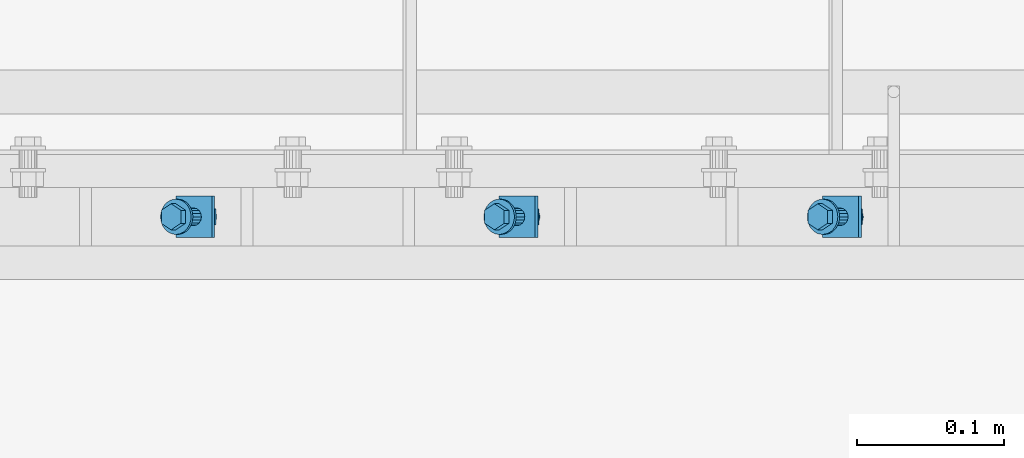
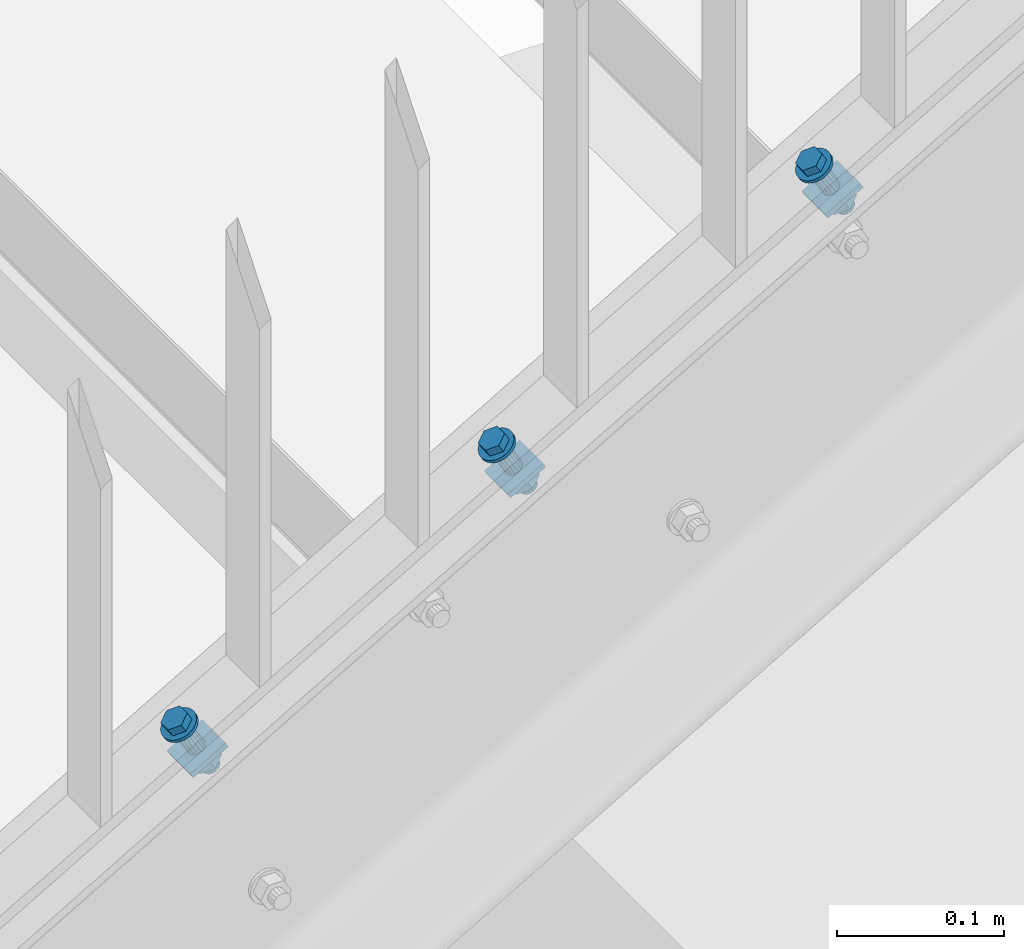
# One storey, part 69 of 145: 3 mechanical fasteners.
"""IFC2X3 building model written with IfcOpenShell, lengths in millimetres."""

from ifc_helpers import new_model, entity, si_unit, converted_unit, origin_with_axes, place, context, project, spatial, faceted_brep, element, save


model = new_model("IFC2X3")

# Units and contexts
model_context = context("Model", 3, precision=1e-09, world=origin_with_axes())
ifc_project = project(units=[si_unit("LENGTHUNIT", "METRE", prefix="MILLI"), si_unit("AREAUNIT", "SQUARE_METRE"), si_unit("VOLUMEUNIT", "CUBIC_METRE"), converted_unit("PLANEANGLEUNIT", "DEGREE", entity("IfcPlaneAngleMeasure", 0.01745329), si_unit("PLANEANGLEUNIT", "RADIAN"), dimensions=[0, 0, 0, 0, 0, 0, 0])], contexts=[model_context])

# Site, building, storey
site_placement = place(None, origin_with_axes())
site = spatial("IfcSite", under=ifc_project, at=site_placement, Name="BZ1 Grund- und Mittelschule 85716 Unterschlei?heim", CompositionType="ELEMENT")
building_placement = place(site_placement, origin_with_axes())
building = spatial("IfcBuilding", under=site, at=building_placement, Name="Struktur 1", CompositionType="ELEMENT")
storey_placement = place(building_placement, origin_with_axes())
storey = spatial("IfcBuildingStorey", under=building, at=storey_placement, Name="Default Storey", CompositionType="ELEMENT", Elevation=0.0)

# Mechanical fasteners
mechanical_fastener_1_placement = place(None, origin_with_axes())
element("IfcMechanicalFastener", 1, at=mechanical_fastener_1_placement, inside=storey, ObjectType="-", NominalDiameter=12.0, NominalLength=45.0, context=model_context, shape_type="Brep", body=[
    faceted_brep([(18239.693272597, -3162.502, 656.738484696), (18240.950000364, -3162.502, 654.577319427), (18241.14932605, -3164.843083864, 654.693228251), (18239.892598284, -3164.843083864, 656.85439352), (18241.739643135, -3167.094201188, 655.036500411), (18240.482915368, -3167.094201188, 657.19766568), (18242.698266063, -3169.168842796, 655.593944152), (18241.441538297, -3169.168842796, 657.755109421), (18243.988355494, -3170.987281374, 656.344137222), (18242.731627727, -3170.987281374, 658.505302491), (18245.560334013, -3172.479635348, 657.258250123), (18244.303606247, -3172.479635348, 659.419415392), (18247.353791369, -3173.58855439, 658.301154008), (18246.097063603, -3173.58855439, 660.462319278), (18249.299806, -3174.271423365, 659.432770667), (18248.043078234, -3174.271423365, 661.593935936), (18251.323593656, -3174.502, 660.609612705), (18250.06686589, -3174.502, 662.770777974), (18253.347381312, -3174.271423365, 661.786454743), (18252.090653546, -3174.271423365, 663.947620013), (18255.293395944, -3173.58855439, 662.918071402), (18254.036668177, -3173.58855439, 665.079236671), (18257.086853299, -3172.479635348, 663.960975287), (18255.830125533, -3172.479635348, 666.122140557), (18258.658831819, -3170.987281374, 664.875088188), (18257.402104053, -3170.987281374, 667.036253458), (18259.94892125, -3169.168842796, 665.625281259), (18258.692193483, -3169.168842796, 667.786446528), (18260.907544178, -3167.094201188, 666.182724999), (18259.650816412, -3167.094201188, 668.343890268), (18261.497861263, -3164.843083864, 666.52599716), (18260.241133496, -3164.843083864, 668.687162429), (18261.697186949, -3162.502, 666.641905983), (18260.440459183, -3162.502, 668.803071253), (18261.497861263, -3160.160916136, 666.52599716), (18260.241133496, -3160.160916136, 668.687162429), (18260.907544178, -3157.909798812, 666.182724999), (18259.650816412, -3157.909798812, 668.343890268), (18259.94892125, -3155.835157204, 665.625281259), (18258.692193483, -3155.835157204, 667.786446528), (18258.658831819, -3154.016718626, 664.875088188), (18257.402104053, -3154.016718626, 667.036253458), (18257.086853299, -3152.524364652, 663.960975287), (18255.830125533, -3152.524364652, 666.122140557), (18255.293395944, -3151.41544561, 662.918071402), (18254.036668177, -3151.41544561, 665.079236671), (18253.347381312, -3150.732576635, 661.786454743), (18252.090653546, -3150.732576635, 663.947620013), (18251.323593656, -3150.502, 660.609612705), (18250.06686589, -3150.502, 662.770777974), (18249.299806, -3150.732576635, 659.432770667), (18248.043078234, -3150.732576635, 661.593935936), (18247.353791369, -3151.41544561, 658.301154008), (18246.097063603, -3151.41544561, 660.462319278), (18245.560334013, -3152.524364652, 657.258250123), (18244.303606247, -3152.524364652, 659.419415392), (18243.988355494, -3154.016718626, 656.344137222), (18242.731627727, -3154.016718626, 658.505302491), (18242.698266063, -3155.835157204, 655.593944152), (18241.441538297, -3155.835157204, 657.755109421), (18241.739643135, -3157.909798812, 655.036500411), (18240.482915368, -3157.909798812, 657.19766568), (18241.14932605, -3160.160916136, 654.693228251), (18239.892598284, -3160.160916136, 656.85439352)], [[[0, 1, 2, 3]], [[3, 2, 4, 5]], [[5, 4, 6, 7]], [[7, 6, 8, 9]], [[9, 8, 10, 11]], [[11, 10, 12, 13]], [[13, 12, 14, 15]], [[15, 14, 16, 17]], [[17, 16, 18, 19]], [[19, 18, 20, 21]], [[21, 20, 22, 23]], [[23, 22, 24, 25]], [[25, 24, 26, 27]], [[27, 26, 28, 29]], [[29, 28, 30, 31]], [[31, 30, 32, 33]], [[33, 32, 34, 35]], [[35, 34, 36, 37]], [[37, 36, 38, 39]], [[39, 38, 40, 41]], [[41, 40, 42, 43]], [[43, 42, 44, 45]], [[45, 44, 46, 47]], [[47, 46, 48, 49]], [[49, 48, 50, 51]], [[51, 50, 52, 53]], [[53, 52, 54, 55]], [[55, 54, 56, 57]], [[57, 56, 58, 59]], [[59, 58, 60, 61]], [[61, 60, 62, 63]], [[63, 62, 1, 0]], [[0, 3, 5, 7, 9, 11, 13, 15, 17, 19, 21, 23, 25, 27, 29, 31, 33, 35, 37, 39, 41, 43, 45, 47, 49, 51, 53, 55, 57, 59, 61, 63]], [[1, 62, 60, 58, 56, 54, 52, 50, 48, 46, 44, 42, 40, 38, 36, 34, 32, 30, 28, 26, 24, 22, 20, 18, 16, 14, 12, 10, 8, 6, 4, 2]]]),
    faceted_brep([(18256.718617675, -3166.9445, 666.638802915), (18253.501394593, -3166.9445, 672.171386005), (18246.849642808, -3171.387, 668.303361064), (18250.06686589, -3171.387, 662.770777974), (18240.197891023, -3166.9445, 664.435336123), (18243.415114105, -3166.9445, 658.902753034), (18240.197891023, -3158.0595, 664.435336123), (18243.415114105, -3158.0595, 658.902753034), (18246.849642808, -3153.617, 668.303361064), (18250.06686589, -3153.617, 662.770777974), (18253.501394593, -3158.0595, 672.171386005), (18256.718617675, -3158.0595, 666.638802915)], [[[0, 1, 2, 3]], [[3, 2, 4, 5]], [[5, 4, 6, 7]], [[7, 6, 8, 9]], [[9, 8, 10, 11]], [[11, 10, 1, 0]], [[4, 2, 1, 10, 8, 6]], [[0, 3, 5, 7, 9, 11]]]),
    faceted_brep([(18246.13679701, -3162.502, 657.593466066), (18257.117588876, -3162.502, 638.710055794), (18257.512410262, -3164.798100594, 638.939646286), (18246.531618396, -3164.798100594, 657.823056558), (18258.636766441, -3166.744640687, 639.593464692), (18247.655974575, -3166.744640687, 658.476874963), (18260.319484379, -3168.045277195, 640.571973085), (18249.338692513, -3168.045277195, 659.455383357), (18262.304385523, -3168.502, 641.726202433), (18251.323593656, -3168.502, 660.609612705), (18264.289286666, -3168.045277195, 642.880431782), (18253.3084948, -3168.045277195, 661.763842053), (18265.972004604, -3166.744640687, 643.858940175), (18254.991212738, -3166.744640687, 662.742350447), (18267.096360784, -3164.798100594, 644.51275858), (18256.115568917, -3164.798100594, 663.396168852), (18267.491182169, -3162.502, 644.742349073), (18256.510390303, -3162.502, 663.625759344), (18267.096360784, -3160.205899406, 644.51275858), (18256.115568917, -3160.205899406, 663.396168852), (18265.972004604, -3158.259359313, 643.858940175), (18254.991212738, -3158.259359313, 662.742350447), (18264.289286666, -3156.958722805, 642.880431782), (18253.3084948, -3156.958722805, 661.763842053), (18262.304385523, -3156.502, 641.726202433), (18251.323593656, -3156.502, 660.609612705), (18260.319484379, -3156.958722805, 640.571973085), (18249.338692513, -3156.958722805, 659.455383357), (18258.636766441, -3158.259359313, 639.593464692), (18247.655974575, -3158.259359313, 658.476874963), (18257.512410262, -3160.205899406, 638.939646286), (18246.531618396, -3160.205899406, 657.823056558)], [[[0, 1, 2, 3]], [[3, 2, 4, 5]], [[5, 4, 6, 7]], [[7, 6, 8, 9]], [[9, 8, 10, 11]], [[11, 10, 12, 13]], [[13, 12, 14, 15]], [[15, 14, 16, 17]], [[17, 16, 18, 19]], [[19, 18, 20, 21]], [[21, 20, 22, 23]], [[23, 22, 24, 25]], [[25, 24, 26, 27]], [[27, 26, 28, 29]], [[29, 28, 30, 31]], [[31, 30, 1, 0]], [[0, 3, 5, 7, 9, 11, 13, 15, 17, 19, 21, 23, 25, 27, 29, 31]], [[1, 30, 28, 26, 24, 22, 20, 18, 16, 14, 12, 10, 8, 6, 4, 2]]]),
    faceted_brep([(18276.540546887, -3176.644135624, 645.377463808), (18274.52978246, -3176.644135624, 648.835328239), (18250.078988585, -3176.644135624, 634.617076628), (18252.089753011, -3176.644135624, 631.159212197), (18250.078988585, -3148.359864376, 634.617076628), (18252.089753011, -3148.359864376, 631.159212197), (18274.52978246, -3148.359864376, 648.835328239), (18276.540546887, -3148.359864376, 645.377463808)], [[[0, 1, 2, 3]], [[3, 2, 4, 5]], [[5, 4, 6, 7]], [[7, 6, 1, 0]], [[4, 2, 1, 6]], [[0, 3, 5, 7]]]),
    faceted_brep([(18277.2403144, -3167.777, 634.216548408), (18272.213403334, -3167.777, 642.861209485), (18264.315149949, -3173.052, 638.268338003), (18269.342061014, -3173.052, 629.623676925), (18256.416896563, -3167.777, 633.67546652), (18261.443807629, -3167.777, 625.030805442), (18256.416896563, -3157.227, 633.67546652), (18261.443807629, -3157.227, 625.030805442), (18264.315149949, -3151.952, 638.268338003), (18269.342061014, -3151.952, 629.623676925), (18272.213403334, -3157.227, 642.861209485), (18277.2403144, -3157.227, 634.216548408)], [[[0, 1, 2, 3]], [[3, 2, 4, 5]], [[5, 4, 6, 7]], [[7, 6, 8, 9]], [[9, 8, 10, 11]], [[11, 10, 1, 0]], [[4, 2, 1, 10, 8, 6]], [[0, 3, 5, 7, 9, 11]]]),
    faceted_brep([(18264.155264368, -3162.502, 626.607530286), (18267.501169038, -3162.502, 620.853656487), (18267.895990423, -3164.798100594, 621.08324698), (18264.550085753, -3164.798100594, 626.837120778), (18269.020346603, -3166.744640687, 621.737065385), (18265.674441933, -3166.744640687, 627.490939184), (18270.70306454, -3168.045277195, 622.715573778), (18267.357159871, -3168.045277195, 628.469447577), (18272.687965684, -3168.502, 623.869803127), (18269.342061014, -3168.502, 629.623676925), (18274.672866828, -3168.045277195, 625.024032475), (18271.326962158, -3168.045277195, 630.777906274), (18276.355584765, -3166.744640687, 626.002540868), (18273.009680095, -3166.744640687, 631.756414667), (18277.479940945, -3164.798100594, 626.656359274), (18274.134036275, -3164.798100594, 632.410233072), (18277.87476233, -3162.502, 626.885949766), (18274.528857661, -3162.502, 632.639823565), (18277.479940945, -3160.205899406, 626.656359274), (18274.134036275, -3160.205899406, 632.410233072), (18276.355584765, -3158.259359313, 626.002540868), (18273.009680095, -3158.259359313, 631.756414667), (18274.672866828, -3156.958722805, 625.024032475), (18271.326962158, -3156.958722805, 630.777906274), (18272.687965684, -3156.502, 623.869803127), (18269.342061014, -3156.502, 629.623676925), (18270.70306454, -3156.958722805, 622.715573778), (18267.357159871, -3156.958722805, 628.469447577), (18269.020346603, -3158.259359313, 621.737065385), (18265.674441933, -3158.259359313, 627.490939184), (18267.895990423, -3160.205899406, 621.08324698), (18264.550085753, -3160.205899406, 626.837120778)], [[[0, 1, 2, 3]], [[3, 2, 4, 5]], [[5, 4, 6, 7]], [[7, 6, 8, 9]], [[9, 8, 10, 11]], [[11, 10, 12, 13]], [[13, 12, 14, 15]], [[15, 14, 16, 17]], [[17, 16, 18, 19]], [[19, 18, 20, 21]], [[21, 20, 22, 23]], [[23, 22, 24, 25]], [[25, 24, 26, 27]], [[27, 26, 28, 29]], [[29, 28, 30, 31]], [[31, 30, 1, 0]], [[0, 3, 5, 7, 9, 11, 13, 15, 17, 19, 21, 23, 25, 27, 29, 31]], [[1, 30, 28, 26, 24, 22, 20, 18, 16, 14, 12, 10, 8, 6, 4, 2]]]),
])
mechanical_fastener_2_placement = place(None, origin_with_axes())
element("IfcMechanicalFastener", 2, at=mechanical_fastener_2_placement, inside=storey, ObjectType="-", NominalDiameter=12.0, NominalLength=45.0, context=model_context, shape_type="Brep", body=[
    faceted_brep([(18459.693775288, -3162.502, 784.669811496), (18460.950503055, -3162.502, 782.508646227), (18461.149828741, -3164.843083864, 782.624555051), (18459.893100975, -3164.843083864, 784.78572032), (18461.740145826, -3167.094201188, 782.967827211), (18460.483418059, -3167.094201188, 785.12899248), (18462.698768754, -3169.168842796, 783.525270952), (18461.442040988, -3169.168842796, 785.686436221), (18463.988858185, -3170.987281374, 784.275464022), (18462.732130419, -3170.987281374, 786.436629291), (18465.560836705, -3172.479635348, 785.189576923), (18464.304108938, -3172.479635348, 787.350742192), (18467.35429406, -3173.58855439, 786.232480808), (18466.097566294, -3173.58855439, 788.393646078), (18469.300308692, -3174.271423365, 787.364097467), (18468.043580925, -3174.271423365, 789.525262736), (18471.324096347, -3174.502, 788.540939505), (18470.067368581, -3174.502, 790.702104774), (18473.347884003, -3174.271423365, 789.717781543), (18472.091156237, -3174.271423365, 791.878946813), (18475.293898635, -3173.58855439, 790.849398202), (18474.037170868, -3173.58855439, 793.010563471), (18477.08735599, -3172.479635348, 791.892302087), (18475.830628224, -3172.479635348, 794.053467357), (18478.65933451, -3170.987281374, 792.806414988), (18477.402606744, -3170.987281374, 794.967580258), (18479.949423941, -3169.168842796, 793.556608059), (18478.692696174, -3169.168842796, 795.717773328), (18480.908046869, -3167.094201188, 794.114051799), (18479.651319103, -3167.094201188, 796.275217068), (18481.498363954, -3164.843083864, 794.45732396), (18480.241636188, -3164.843083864, 796.618489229), (18481.69768964, -3162.502, 794.573232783), (18480.440961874, -3162.502, 796.734398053), (18481.498363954, -3160.160916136, 794.45732396), (18480.241636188, -3160.160916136, 796.618489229), (18480.908046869, -3157.909798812, 794.114051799), (18479.651319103, -3157.909798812, 796.275217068), (18479.949423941, -3155.835157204, 793.556608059), (18478.692696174, -3155.835157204, 795.717773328), (18478.65933451, -3154.016718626, 792.806414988), (18477.402606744, -3154.016718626, 794.967580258), (18477.08735599, -3152.524364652, 791.892302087), (18475.830628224, -3152.524364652, 794.053467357), (18475.293898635, -3151.41544561, 790.849398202), (18474.037170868, -3151.41544561, 793.010563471), (18473.347884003, -3150.732576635, 789.717781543), (18472.091156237, -3150.732576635, 791.878946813), (18471.324096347, -3150.502, 788.540939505), (18470.067368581, -3150.502, 790.702104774), (18469.300308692, -3150.732576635, 787.364097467), (18468.043580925, -3150.732576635, 789.525262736), (18467.35429406, -3151.41544561, 786.232480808), (18466.097566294, -3151.41544561, 788.393646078), (18465.560836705, -3152.524364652, 785.189576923), (18464.304108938, -3152.524364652, 787.350742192), (18463.988858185, -3154.016718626, 784.275464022), (18462.732130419, -3154.016718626, 786.436629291), (18462.698768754, -3155.835157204, 783.525270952), (18461.442040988, -3155.835157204, 785.686436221), (18461.740145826, -3157.909798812, 782.967827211), (18460.483418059, -3157.909798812, 785.12899248), (18461.149828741, -3160.160916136, 782.624555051), (18459.893100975, -3160.160916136, 784.78572032)], [[[0, 1, 2, 3]], [[3, 2, 4, 5]], [[5, 4, 6, 7]], [[7, 6, 8, 9]], [[9, 8, 10, 11]], [[11, 10, 12, 13]], [[13, 12, 14, 15]], [[15, 14, 16, 17]], [[17, 16, 18, 19]], [[19, 18, 20, 21]], [[21, 20, 22, 23]], [[23, 22, 24, 25]], [[25, 24, 26, 27]], [[27, 26, 28, 29]], [[29, 28, 30, 31]], [[31, 30, 32, 33]], [[33, 32, 34, 35]], [[35, 34, 36, 37]], [[37, 36, 38, 39]], [[39, 38, 40, 41]], [[41, 40, 42, 43]], [[43, 42, 44, 45]], [[45, 44, 46, 47]], [[47, 46, 48, 49]], [[49, 48, 50, 51]], [[51, 50, 52, 53]], [[53, 52, 54, 55]], [[55, 54, 56, 57]], [[57, 56, 58, 59]], [[59, 58, 60, 61]], [[61, 60, 62, 63]], [[63, 62, 1, 0]], [[0, 3, 5, 7, 9, 11, 13, 15, 17, 19, 21, 23, 25, 27, 29, 31, 33, 35, 37, 39, 41, 43, 45, 47, 49, 51, 53, 55, 57, 59, 61, 63]], [[1, 62, 60, 58, 56, 54, 52, 50, 48, 46, 44, 42, 40, 38, 36, 34, 32, 30, 28, 26, 24, 22, 20, 18, 16, 14, 12, 10, 8, 6, 4, 2]]]),
    faceted_brep([(18476.719120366, -3166.9445, 794.570129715), (18473.501897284, -3166.9445, 800.102712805), (18466.850145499, -3171.387, 796.234687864), (18470.067368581, -3171.387, 790.702104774), (18460.198393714, -3166.9445, 792.366662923), (18463.415616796, -3166.9445, 786.834079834), (18460.198393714, -3158.0595, 792.366662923), (18463.415616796, -3158.0595, 786.834079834), (18466.850145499, -3153.617, 796.234687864), (18470.067368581, -3153.617, 790.702104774), (18473.501897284, -3158.0595, 800.102712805), (18476.719120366, -3158.0595, 794.570129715)], [[[0, 1, 2, 3]], [[3, 2, 4, 5]], [[5, 4, 6, 7]], [[7, 6, 8, 9]], [[9, 8, 10, 11]], [[11, 10, 1, 0]], [[4, 2, 1, 10, 8, 6]], [[0, 3, 5, 7, 9, 11]]]),
    faceted_brep([(18466.137299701, -3162.502, 785.524792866), (18477.118091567, -3162.502, 766.641382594), (18477.512912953, -3164.798100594, 766.870973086), (18466.532121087, -3164.798100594, 785.754383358), (18478.637269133, -3166.744640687, 767.524791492), (18467.656477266, -3166.744640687, 786.408201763), (18480.31998707, -3168.045277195, 768.503299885), (18469.339195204, -3168.045277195, 787.386710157), (18482.304888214, -3168.502, 769.657529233), (18471.324096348, -3168.502, 788.540939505), (18484.289789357, -3168.045277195, 770.811758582), (18473.308997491, -3168.045277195, 789.695168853), (18485.972507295, -3166.744640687, 771.790266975), (18474.991715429, -3166.744640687, 790.673677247), (18487.096863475, -3164.798100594, 772.44408538), (18476.116071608, -3164.798100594, 791.327495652), (18487.49168486, -3162.502, 772.673675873), (18476.510892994, -3162.502, 791.557086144), (18487.096863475, -3160.205899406, 772.44408538), (18476.116071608, -3160.205899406, 791.327495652), (18485.972507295, -3158.259359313, 771.790266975), (18474.991715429, -3158.259359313, 790.673677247), (18484.289789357, -3156.958722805, 770.811758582), (18473.308997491, -3156.958722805, 789.695168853), (18482.304888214, -3156.502, 769.657529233), (18471.324096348, -3156.502, 788.540939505), (18480.31998707, -3156.958722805, 768.503299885), (18469.339195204, -3156.958722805, 787.386710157), (18478.637269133, -3158.259359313, 767.524791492), (18467.656477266, -3158.259359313, 786.408201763), (18477.512912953, -3160.205899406, 766.870973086), (18466.532121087, -3160.205899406, 785.754383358)], [[[0, 1, 2, 3]], [[3, 2, 4, 5]], [[5, 4, 6, 7]], [[7, 6, 8, 9]], [[9, 8, 10, 11]], [[11, 10, 12, 13]], [[13, 12, 14, 15]], [[15, 14, 16, 17]], [[17, 16, 18, 19]], [[19, 18, 20, 21]], [[21, 20, 22, 23]], [[23, 22, 24, 25]], [[25, 24, 26, 27]], [[27, 26, 28, 29]], [[29, 28, 30, 31]], [[31, 30, 1, 0]], [[0, 3, 5, 7, 9, 11, 13, 15, 17, 19, 21, 23, 25, 27, 29, 31]], [[1, 30, 28, 26, 24, 22, 20, 18, 16, 14, 12, 10, 8, 6, 4, 2]]]),
    faceted_brep([(18496.541049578, -3176.644135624, 773.308790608), (18494.530285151, -3176.644135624, 776.766655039), (18470.079491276, -3176.644135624, 762.548403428), (18472.090255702, -3176.644135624, 759.090538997), (18470.079491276, -3148.359864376, 762.548403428), (18472.090255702, -3148.359864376, 759.090538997), (18494.530285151, -3148.359864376, 776.766655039), (18496.541049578, -3148.359864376, 773.308790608)], [[[0, 1, 2, 3]], [[3, 2, 4, 5]], [[5, 4, 6, 7]], [[7, 6, 1, 0]], [[4, 2, 1, 6]], [[0, 3, 5, 7]]]),
    faceted_brep([(18497.240817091, -3167.777, 762.147875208), (18492.213906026, -3167.777, 770.792536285), (18484.31565264, -3173.052, 766.199664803), (18489.342563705, -3173.052, 757.555003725), (18476.417399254, -3167.777, 761.60679332), (18481.44431032, -3167.777, 752.962132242), (18476.417399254, -3157.227, 761.60679332), (18481.44431032, -3157.227, 752.962132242), (18484.31565264, -3151.952, 766.199664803), (18489.342563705, -3151.952, 757.555003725), (18492.213906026, -3157.227, 770.792536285), (18497.240817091, -3157.227, 762.147875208)], [[[0, 1, 2, 3]], [[3, 2, 4, 5]], [[5, 4, 6, 7]], [[7, 6, 8, 9]], [[9, 8, 10, 11]], [[11, 10, 1, 0]], [[4, 2, 1, 10, 8, 6]], [[0, 3, 5, 7, 9, 11]]]),
    faceted_brep([(18484.155767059, -3162.502, 754.538857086), (18487.501671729, -3162.502, 748.784983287), (18487.896493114, -3164.798100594, 749.01457378), (18484.550588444, -3164.798100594, 754.768447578), (18489.020849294, -3166.744640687, 749.668392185), (18485.674944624, -3166.744640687, 755.422265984), (18490.703567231, -3168.045277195, 750.646900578), (18487.357662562, -3168.045277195, 756.400774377), (18492.688468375, -3168.502, 751.801129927), (18489.342563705, -3168.502, 757.555003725), (18494.673369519, -3168.045277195, 752.955359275), (18491.327464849, -3168.045277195, 758.709233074), (18496.356087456, -3166.744640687, 753.933867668), (18493.010182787, -3166.744640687, 759.687741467), (18497.480443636, -3164.798100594, 754.587686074), (18494.134538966, -3164.798100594, 760.341559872), (18497.875265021, -3162.502, 754.817276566), (18494.529360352, -3162.502, 760.571150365), (18497.480443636, -3160.205899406, 754.587686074), (18494.134538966, -3160.205899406, 760.341559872), (18496.356087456, -3158.259359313, 753.933867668), (18493.010182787, -3158.259359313, 759.687741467), (18494.673369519, -3156.958722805, 752.955359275), (18491.327464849, -3156.958722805, 758.709233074), (18492.688468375, -3156.502, 751.801129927), (18489.342563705, -3156.502, 757.555003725), (18490.703567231, -3156.958722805, 750.646900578), (18487.357662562, -3156.958722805, 756.400774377), (18489.020849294, -3158.259359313, 749.668392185), (18485.674944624, -3158.259359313, 755.422265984), (18487.896493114, -3160.205899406, 749.01457378), (18484.550588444, -3160.205899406, 754.768447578)], [[[0, 1, 2, 3]], [[3, 2, 4, 5]], [[5, 4, 6, 7]], [[7, 6, 8, 9]], [[9, 8, 10, 11]], [[11, 10, 12, 13]], [[13, 12, 14, 15]], [[15, 14, 16, 17]], [[17, 16, 18, 19]], [[19, 18, 20, 21]], [[21, 20, 22, 23]], [[23, 22, 24, 25]], [[25, 24, 26, 27]], [[27, 26, 28, 29]], [[29, 28, 30, 31]], [[31, 30, 1, 0]], [[0, 3, 5, 7, 9, 11, 13, 15, 17, 19, 21, 23, 25, 27, 29, 31]], [[1, 30, 28, 26, 24, 22, 20, 18, 16, 14, 12, 10, 8, 6, 4, 2]]]),
])
mechanical_fastener_3_placement = place(None, origin_with_axes())
element("IfcMechanicalFastener", 3, at=mechanical_fastener_3_placement, inside=storey, ObjectType="-", NominalDiameter=12.0, NominalLength=45.0, context=model_context, shape_type="Brep", body=[
    faceted_brep([(18679.69427798, -3162.502, 912.601138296), (18680.951005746, -3162.502, 910.439973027), (18681.150331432, -3164.843083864, 910.55588185), (18679.893603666, -3164.843083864, 912.71704712), (18681.740648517, -3167.094201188, 910.899154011), (18680.48392075, -3167.094201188, 913.06031928), (18682.699271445, -3169.168842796, 911.456597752), (18681.442543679, -3169.168842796, 913.617763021), (18683.989360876, -3170.987281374, 912.206790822), (18682.73263311, -3170.987281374, 914.367956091), (18685.561339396, -3172.479635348, 913.120903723), (18684.304611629, -3172.479635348, 915.282068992), (18687.354796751, -3173.58855439, 914.163807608), (18686.098068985, -3173.58855439, 916.324972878), (18689.300811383, -3174.271423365, 915.295424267), (18688.044083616, -3174.271423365, 917.456589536), (18691.324599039, -3174.502, 916.472266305), (18690.067871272, -3174.502, 918.633431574), (18693.348386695, -3174.271423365, 917.649108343), (18692.091658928, -3174.271423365, 919.810273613), (18695.294401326, -3173.58855439, 918.780725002), (18694.03767356, -3173.58855439, 920.941890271), (18697.087858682, -3172.479635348, 919.823628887), (18695.831130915, -3172.479635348, 921.984794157), (18698.659837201, -3170.987281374, 920.737741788), (18697.403109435, -3170.987281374, 922.898907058), (18699.949926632, -3169.168842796, 921.487934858), (18698.693198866, -3169.168842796, 923.649100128), (18700.90854956, -3167.094201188, 922.045378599), (18699.651821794, -3167.094201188, 924.206543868), (18701.498866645, -3164.843083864, 922.38865076), (18700.242138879, -3164.843083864, 924.549816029), (18701.698192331, -3162.502, 922.504559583), (18700.441464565, -3162.502, 924.665724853), (18701.498866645, -3160.160916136, 922.38865076), (18700.242138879, -3160.160916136, 924.549816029), (18700.90854956, -3157.909798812, 922.045378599), (18699.651821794, -3157.909798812, 924.206543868), (18699.949926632, -3155.835157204, 921.487934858), (18698.693198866, -3155.835157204, 923.649100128), (18698.659837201, -3154.016718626, 920.737741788), (18697.403109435, -3154.016718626, 922.898907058), (18697.087858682, -3152.524364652, 919.823628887), (18695.831130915, -3152.524364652, 921.984794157), (18695.294401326, -3151.41544561, 918.780725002), (18694.03767356, -3151.41544561, 920.941890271), (18693.348386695, -3150.732576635, 917.649108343), (18692.091658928, -3150.732576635, 919.810273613), (18691.324599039, -3150.502, 916.472266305), (18690.067871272, -3150.502, 918.633431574), (18689.300811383, -3150.732576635, 915.295424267), (18688.044083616, -3150.732576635, 917.456589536), (18687.354796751, -3151.41544561, 914.163807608), (18686.098068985, -3151.41544561, 916.324972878), (18685.561339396, -3152.524364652, 913.120903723), (18684.304611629, -3152.524364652, 915.282068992), (18683.989360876, -3154.016718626, 912.206790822), (18682.73263311, -3154.016718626, 914.367956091), (18682.699271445, -3155.835157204, 911.456597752), (18681.442543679, -3155.835157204, 913.617763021), (18681.740648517, -3157.909798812, 910.899154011), (18680.48392075, -3157.909798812, 913.06031928), (18681.150331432, -3160.160916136, 910.55588185), (18679.893603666, -3160.160916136, 912.71704712)], [[[0, 1, 2, 3]], [[3, 2, 4, 5]], [[5, 4, 6, 7]], [[7, 6, 8, 9]], [[9, 8, 10, 11]], [[11, 10, 12, 13]], [[13, 12, 14, 15]], [[15, 14, 16, 17]], [[17, 16, 18, 19]], [[19, 18, 20, 21]], [[21, 20, 22, 23]], [[23, 22, 24, 25]], [[25, 24, 26, 27]], [[27, 26, 28, 29]], [[29, 28, 30, 31]], [[31, 30, 32, 33]], [[33, 32, 34, 35]], [[35, 34, 36, 37]], [[37, 36, 38, 39]], [[39, 38, 40, 41]], [[41, 40, 42, 43]], [[43, 42, 44, 45]], [[45, 44, 46, 47]], [[47, 46, 48, 49]], [[49, 48, 50, 51]], [[51, 50, 52, 53]], [[53, 52, 54, 55]], [[55, 54, 56, 57]], [[57, 56, 58, 59]], [[59, 58, 60, 61]], [[61, 60, 62, 63]], [[63, 62, 1, 0]], [[0, 3, 5, 7, 9, 11, 13, 15, 17, 19, 21, 23, 25, 27, 29, 31, 33, 35, 37, 39, 41, 43, 45, 47, 49, 51, 53, 55, 57, 59, 61, 63]], [[1, 62, 60, 58, 56, 54, 52, 50, 48, 46, 44, 42, 40, 38, 36, 34, 32, 30, 28, 26, 24, 22, 20, 18, 16, 14, 12, 10, 8, 6, 4, 2]]]),
    faceted_brep([(18696.719623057, -3166.9445, 922.501456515), (18693.502399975, -3166.9445, 928.034039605), (18686.85064819, -3171.387, 924.166014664), (18690.067871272, -3171.387, 918.633431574), (18680.198896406, -3166.9445, 920.297989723), (18683.416119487, -3166.9445, 914.765406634), (18680.198896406, -3158.0595, 920.297989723), (18683.416119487, -3158.0595, 914.765406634), (18686.85064819, -3153.617, 924.166014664), (18690.067871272, -3153.617, 918.633431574), (18693.502399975, -3158.0595, 928.034039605), (18696.719623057, -3158.0595, 922.501456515)], [[[0, 1, 2, 3]], [[3, 2, 4, 5]], [[5, 4, 6, 7]], [[7, 6, 8, 9]], [[9, 8, 10, 11]], [[11, 10, 1, 0]], [[4, 2, 1, 10, 8, 6]], [[0, 3, 5, 7, 9, 11]]]),
    faceted_brep([(18686.137802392, -3162.502, 913.456119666), (18697.118594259, -3162.502, 894.572709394), (18697.513415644, -3164.798100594, 894.802299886), (18686.532623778, -3164.798100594, 913.685710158), (18698.637771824, -3166.744640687, 895.456118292), (18687.656979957, -3166.744640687, 914.339528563), (18700.320489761, -3168.045277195, 896.434626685), (18689.339697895, -3168.045277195, 915.318036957), (18702.305390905, -3168.502, 897.588856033), (18691.324599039, -3168.502, 916.472266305), (18704.290292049, -3168.045277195, 898.743085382), (18693.309500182, -3168.045277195, 917.626495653), (18705.973009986, -3166.744640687, 899.721593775), (18694.99221812, -3166.744640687, 918.605004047), (18707.097366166, -3164.798100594, 900.37541218), (18696.1165743, -3164.798100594, 919.258822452), (18707.492187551, -3162.502, 900.605002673), (18696.511395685, -3162.502, 919.488412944), (18707.097366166, -3160.205899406, 900.37541218), (18696.1165743, -3160.205899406, 919.258822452), (18705.973009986, -3158.259359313, 899.721593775), (18694.99221812, -3158.259359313, 918.605004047), (18704.290292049, -3156.958722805, 898.743085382), (18693.309500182, -3156.958722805, 917.626495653), (18702.305390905, -3156.502, 897.588856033), (18691.324599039, -3156.502, 916.472266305), (18700.320489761, -3156.958722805, 896.434626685), (18689.339697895, -3156.958722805, 915.318036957), (18698.637771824, -3158.259359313, 895.456118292), (18687.656979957, -3158.259359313, 914.339528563), (18697.513415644, -3160.205899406, 894.802299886), (18686.532623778, -3160.205899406, 913.685710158)], [[[0, 1, 2, 3]], [[3, 2, 4, 5]], [[5, 4, 6, 7]], [[7, 6, 8, 9]], [[9, 8, 10, 11]], [[11, 10, 12, 13]], [[13, 12, 14, 15]], [[15, 14, 16, 17]], [[17, 16, 18, 19]], [[19, 18, 20, 21]], [[21, 20, 22, 23]], [[23, 22, 24, 25]], [[25, 24, 26, 27]], [[27, 26, 28, 29]], [[29, 28, 30, 31]], [[31, 30, 1, 0]], [[0, 3, 5, 7, 9, 11, 13, 15, 17, 19, 21, 23, 25, 27, 29, 31]], [[1, 30, 28, 26, 24, 22, 20, 18, 16, 14, 12, 10, 8, 6, 4, 2]]]),
    faceted_brep([(18716.541552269, -3176.644135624, 901.240117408), (18714.530787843, -3176.644135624, 904.697981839), (18690.079993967, -3176.644135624, 890.479730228), (18692.090758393, -3176.644135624, 887.021865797), (18690.079993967, -3148.359864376, 890.479730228), (18692.090758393, -3148.359864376, 887.021865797), (18714.530787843, -3148.359864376, 904.697981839), (18716.541552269, -3148.359864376, 901.240117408)], [[[0, 1, 2, 3]], [[3, 2, 4, 5]], [[5, 4, 6, 7]], [[7, 6, 1, 0]], [[4, 2, 1, 6]], [[0, 3, 5, 7]]]),
    faceted_brep([(18717.241319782, -3167.777, 890.079202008), (18712.214408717, -3167.777, 898.723863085), (18704.316155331, -3173.052, 894.130991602), (18709.343066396, -3173.052, 885.486330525), (18696.417901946, -3167.777, 889.53812012), (18701.444813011, -3167.777, 880.893459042), (18696.417901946, -3157.227, 889.53812012), (18701.444813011, -3157.227, 880.893459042), (18704.316155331, -3151.952, 894.130991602), (18709.343066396, -3151.952, 885.486330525), (18712.214408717, -3157.227, 898.723863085), (18717.241319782, -3157.227, 890.079202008)], [[[0, 1, 2, 3]], [[3, 2, 4, 5]], [[5, 4, 6, 7]], [[7, 6, 8, 9]], [[9, 8, 10, 11]], [[11, 10, 1, 0]], [[4, 2, 1, 10, 8, 6]], [[0, 3, 5, 7, 9, 11]]]),
    faceted_brep([(18704.15626975, -3162.502, 882.470183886), (18707.50217442, -3162.502, 876.716310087), (18707.896995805, -3164.798100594, 876.945900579), (18704.551091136, -3164.798100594, 882.699774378), (18709.021351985, -3166.744640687, 877.599718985), (18705.675447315, -3166.744640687, 883.353592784), (18710.704069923, -3168.045277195, 878.578227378), (18707.358165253, -3168.045277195, 884.332101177), (18712.688971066, -3168.502, 879.732456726), (18709.343066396, -3168.502, 885.486330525), (18714.67387221, -3168.045277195, 880.886686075), (18711.32796754, -3168.045277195, 886.640559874), (18716.356590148, -3166.744640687, 881.865194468), (18713.010685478, -3166.744640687, 887.619068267), (18717.480946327, -3164.798100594, 882.519012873), (18714.135041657, -3164.798100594, 888.272886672), (18717.875767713, -3162.502, 882.748603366), (18714.529863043, -3162.502, 888.502477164), (18717.480946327, -3160.205899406, 882.519012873), (18714.135041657, -3160.205899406, 888.272886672), (18716.356590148, -3158.259359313, 881.865194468), (18713.010685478, -3158.259359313, 887.619068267), (18714.67387221, -3156.958722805, 880.886686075), (18711.32796754, -3156.958722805, 886.640559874), (18712.688971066, -3156.502, 879.732456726), (18709.343066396, -3156.502, 885.486330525), (18710.704069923, -3156.958722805, 878.578227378), (18707.358165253, -3156.958722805, 884.332101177), (18709.021351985, -3158.259359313, 877.599718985), (18705.675447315, -3158.259359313, 883.353592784), (18707.896995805, -3160.205899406, 876.945900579), (18704.551091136, -3160.205899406, 882.699774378)], [[[0, 1, 2, 3]], [[3, 2, 4, 5]], [[5, 4, 6, 7]], [[7, 6, 8, 9]], [[9, 8, 10, 11]], [[11, 10, 12, 13]], [[13, 12, 14, 15]], [[15, 14, 16, 17]], [[17, 16, 18, 19]], [[19, 18, 20, 21]], [[21, 20, 22, 23]], [[23, 22, 24, 25]], [[25, 24, 26, 27]], [[27, 26, 28, 29]], [[29, 28, 30, 31]], [[31, 30, 1, 0]], [[0, 3, 5, 7, 9, 11, 13, 15, 17, 19, 21, 23, 25, 27, 29, 31]], [[1, 30, 28, 26, 24, 22, 20, 18, 16, 14, 12, 10, 8, 6, 4, 2]]]),
])

save(model, "model.ifc")
